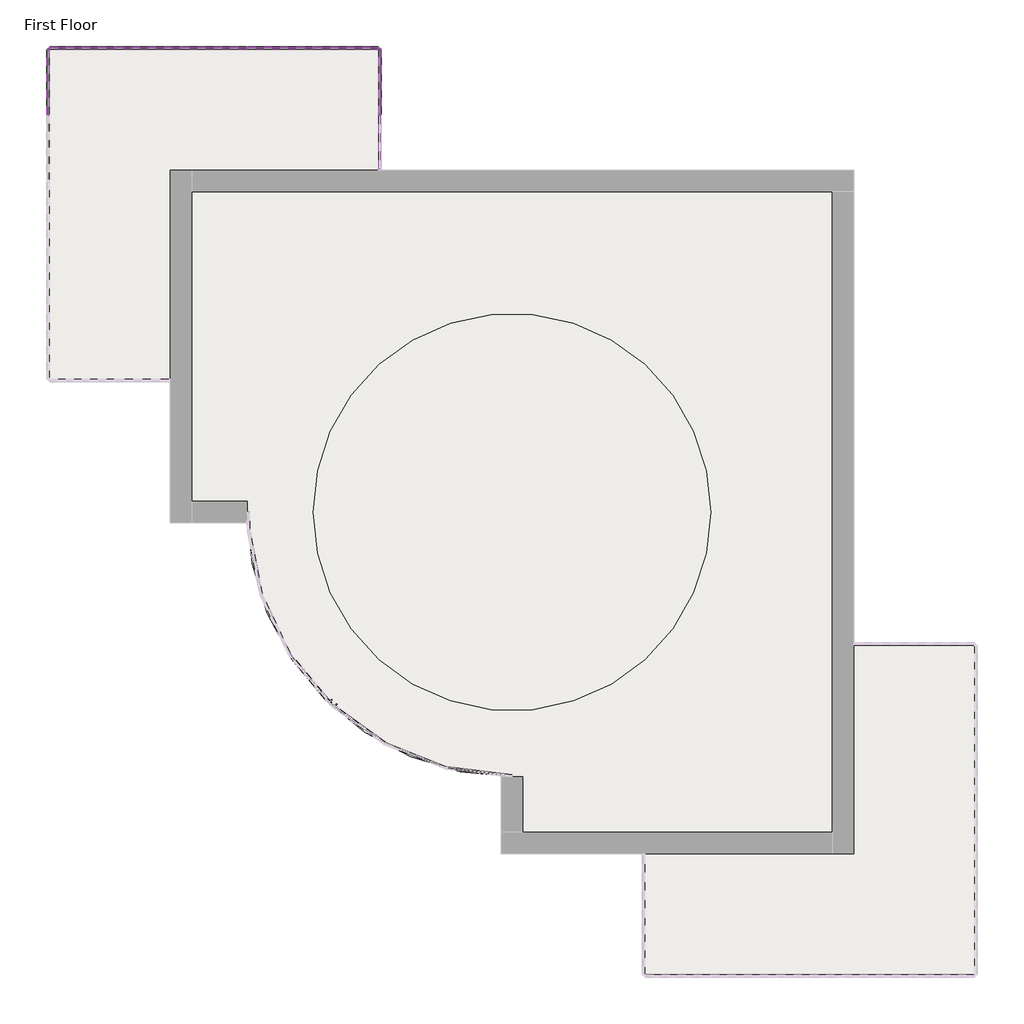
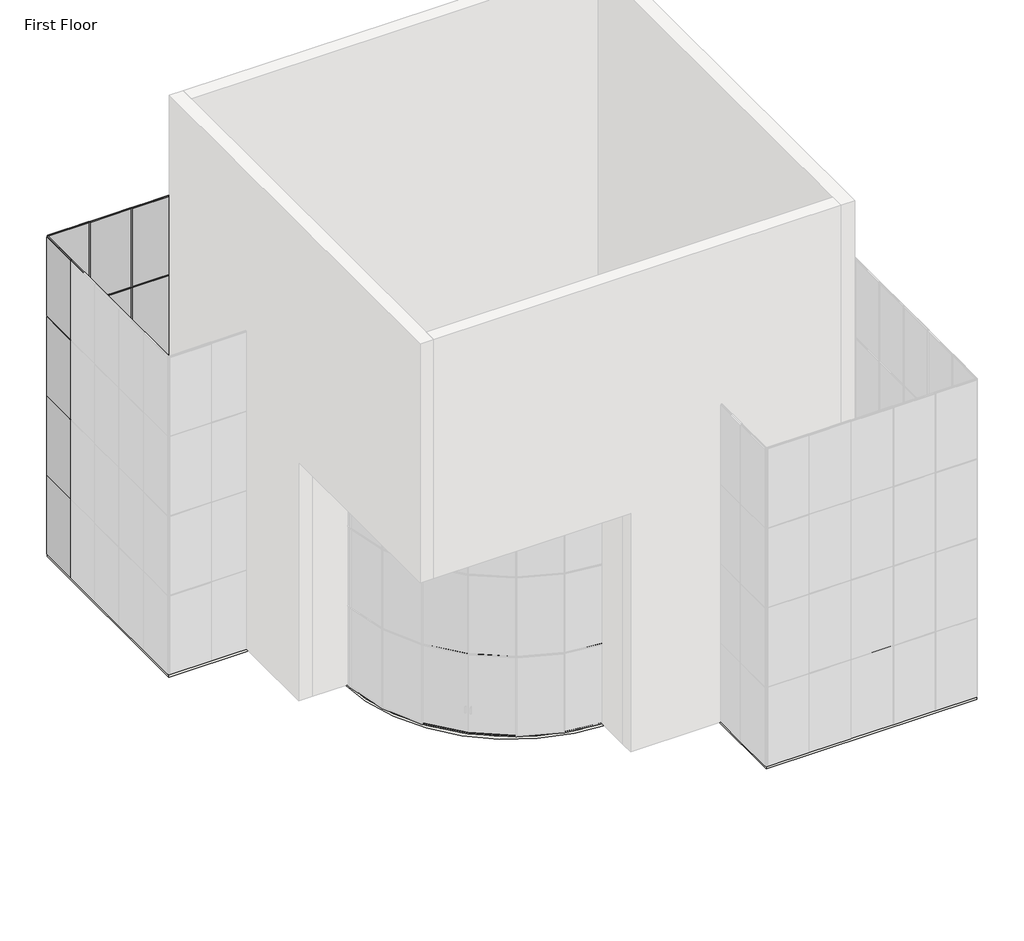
# One storey, part 4 of 4: 84 members, 28 plates, 4 slabs.
"""IFC4 building model written with IfcOpenShell, lengths in millimetres."""

from ifc_helpers import new_model, si_unit, point, frame, frame_2d, origin, place, context, project, spatial, polyline, circle_curve, trimmed, segment, composite_curve, outline, extrude, transform, mapped, element, save
from components import member_5e617a80, member_74941792, member_cbdb9076, member_7e523723, member_9fd3d903, member_6604d1e0, member_e0356dda, member_be0b070d, system_panel_glazed_9b7d687a, system_panel_glazed_9a901b4a, system_panel_glazed_2d5e1d3d, system_panel_glazed_37964ea6

model = new_model("IFC4")

# Units and contexts
model_context = context("Model", 3, world=origin())
ifc_project = project(units=[si_unit("LENGTHUNIT", "METRE", prefix="MILLI")], contexts=[model_context])

# Site, building, storey
site = spatial("IfcSite", under=ifc_project)
building = spatial("IfcBuilding", under=site)
storey = spatial("IfcBuildingStorey", under=building, Name="First Floor", Elevation=0.0)

# Members
placement = place(None, origin())
member_shape = member_5e617a80(model_context)
element("IfcMember", 1, ObjectType="Rectangular Mullion : 1\" Square", at=placement, inside=storey, context=model_context, shape_type="MappedRepresentation", body=[
    mapped(member_shape, transform((-13139.1056157, 8470.7139224, 3048.0), x_axis=(0.0, 0.0, 1.0), y_axis=(-1.0, 0.0, 0.0), z_axis=(0.0, -1.0, 0.0))),
])
element("IfcMember", 2, ObjectType="Rectangular Mullion : 1\" Square", at=placement, inside=storey, context=model_context, shape_type="MappedRepresentation", body=[
    mapped(member_shape, transform((-13139.1056157, 8470.7139224, 6096.0), x_axis=(0.0, 0.0, 1.0), y_axis=(-1.0, 0.0, 0.0), z_axis=(0.0, -1.0, 0.0))),
])
element("IfcMember", 3, ObjectType="Rectangular Mullion : 1\" Square", at=placement, inside=storey, context=model_context, shape_type="MappedRepresentation", body=[
    mapped(member_shape, transform((-13139.1056157, 8470.7139224, 9144.0), x_axis=(0.0, 0.0, 1.0), y_axis=(-1.0, 0.0, 0.0), z_axis=(0.0, -1.0, 0.0))),
])
element("IfcMember", 4, ObjectType="Rectangular Mullion : 1\" Square", at=placement, inside=storey, context=model_context, shape_type="MappedRepresentation", body=[
    mapped(member_shape, transform((-7030.4056157, 9982.0139224, 3048.0), x_axis=(0.0, 0.0, 1.0), y_axis=(0.0, 1.0, 0.0), z_axis=(-0.9999999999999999, 0.0, 0.0))),
])
element("IfcMember", 5, ObjectType="Rectangular Mullion : 1\" Square", at=placement, inside=storey, context=model_context, shape_type="MappedRepresentation", body=[
    mapped(member_shape, transform((-13113.7056157, 9982.0139224, 3048.0), x_axis=(0.0, 0.0, 1.0), y_axis=(0.0, 1.0, 0.0), z_axis=(-1.0, 0.0, 0.0))),
])
element("IfcMember", 6, ObjectType="Rectangular Mullion : 1\" Square", at=placement, inside=storey, context=model_context, shape_type="MappedRepresentation", body=[
    mapped(member_shape, transform((-7030.4056157, 9982.0139224, 6096.0), x_axis=(0.0, 0.0, 1.0), y_axis=(0.0, 1.0, 0.0), z_axis=(-0.9999999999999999, 0.0, 0.0))),
])
element("IfcMember", 7, ObjectType="Rectangular Mullion : 1\" Square", at=placement, inside=storey, context=model_context, shape_type="MappedRepresentation", body=[
    mapped(member_shape, transform((-13113.7056157, 9982.0139224, 6096.0), x_axis=(0.0, 0.0, 1.0), y_axis=(0.0, 1.0, 0.0), z_axis=(-1.0, 0.0, 0.0))),
])
element("IfcMember", 8, ObjectType="Rectangular Mullion : 1\" Square", at=placement, inside=storey, context=model_context, shape_type="MappedRepresentation", body=[
    mapped(member_shape, transform((-7030.4056157, 9982.0139224, 9144.0), x_axis=(0.0, 0.0, 1.0), y_axis=(0.0, 1.0, 0.0), z_axis=(-0.9999999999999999, 0.0, 0.0))),
])
element("IfcMember", 9, ObjectType="Rectangular Mullion : 1\" Square", at=placement, inside=storey, context=model_context, shape_type="MappedRepresentation", body=[
    mapped(member_shape, transform((-13113.7056157, 9982.0139224, 9144.0), x_axis=(0.0, 0.0, 1.0), y_axis=(0.0, 1.0, 0.0), z_axis=(-1.0, 0.0, 0.0))),
])
member_2_shape = member_74941792(model_context)
element("IfcMember", 10, ObjectType="Rectangular Mullion : 1\" Square", at=placement, inside=storey, context=model_context, shape_type="MappedRepresentation", body=[
    mapped(member_2_shape, transform((-13139.1056157, 8470.7139224, 12192.0), x_axis=(0.0, 0.0, 1.0), y_axis=(-1.0, 0.0, 0.0), z_axis=(0.0, -1.0, 0.0))),
])
element("IfcMember", 11, ObjectType="Rectangular Mullion : 1\" Square", at=placement, inside=storey, context=model_context, shape_type="MappedRepresentation", body=[
    mapped(member_2_shape, transform((-13113.7056157, 9982.0139224, 12192.0), x_axis=(0.0, 0.0, 1.0), y_axis=(0.0, 1.0, 0.0), z_axis=(-1.0, 0.0, 0.0))),
])
element("IfcMember", 12, ObjectType="Rectangular Mullion : 1\" Square", at=placement, inside=storey, context=model_context, shape_type="MappedRepresentation", body=[
    mapped(member_2_shape, transform((-7030.4056157, 9982.0139224, 12192.0), x_axis=(0.0, 0.0, 1.0), y_axis=(0.0, 1.0, 0.0), z_axis=(-0.9999999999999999, 0.0, 0.0))),
])
member_3_shape = member_cbdb9076(model_context)
element("IfcMember", 13, ObjectType="Rectangular Mullion : 1\" Square", at=placement, inside=storey, context=model_context, shape_type="MappedRepresentation", body=[
    mapped(member_3_shape, transform((-13139.1056157, 8458.0139224, 3048.0), x_axis=(0.0, -1.0, 0.0), y_axis=(-1.0, 0.0, 0.0), z_axis=(0.0, 0.0, -1.0))),
])
element("IfcMember", 14, ObjectType="Rectangular Mullion : 1\" Square", at=placement, inside=storey, context=model_context, shape_type="MappedRepresentation", body=[
    mapped(member_3_shape, transform((-13139.1056157, 8458.0139224, 6096.0), x_axis=(0.0, -1.0, 0.0), y_axis=(-1.0, 0.0, 0.0), z_axis=(0.0, 0.0, -1.0))),
])
element("IfcMember", 15, ObjectType="Rectangular Mullion : 1\" Square", at=placement, inside=storey, context=model_context, shape_type="MappedRepresentation", body=[
    mapped(member_3_shape, transform((-8567.1056157, 9982.0139224, 6096.0), x_axis=(-1.0, 0.0, 0.0), y_axis=(0.0, 1.0, 0.0), z_axis=(0.0, 0.0, -1.0))),
])
element("IfcMember", 16, ObjectType="Rectangular Mullion : 1\" Square", at=placement, inside=storey, context=model_context, shape_type="MappedRepresentation", body=[
    mapped(member_3_shape, transform((-10091.1056157, 9982.0139224, 3048.0), x_axis=(-1.0, 0.0, 0.0), y_axis=(0.0, 1.0, 0.0), z_axis=(0.0, 0.0, -1.0))),
])
element("IfcMember", 17, ObjectType="Rectangular Mullion : 1\" Square", at=placement, inside=storey, context=model_context, shape_type="MappedRepresentation", body=[
    mapped(member_3_shape, transform((-10091.1056157, 9982.0139224, 6096.0), x_axis=(-1.0, 0.0, 0.0), y_axis=(0.0, 1.0, 0.0), z_axis=(0.0, 0.0, -1.0))),
])
element("IfcMember", 18, ObjectType="Rectangular Mullion : 1\" Square", at=placement, inside=storey, context=model_context, shape_type="MappedRepresentation", body=[
    mapped(member_3_shape, transform((-11615.1056157, 9982.0139224, 3048.0), x_axis=(-1.0, 0.0, 0.0), y_axis=(0.0, 1.0, 0.0), z_axis=(0.0, 0.0, -1.0))),
])
element("IfcMember", 19, ObjectType="Rectangular Mullion : 1\" Square", at=placement, inside=storey, context=model_context, shape_type="MappedRepresentation", body=[
    mapped(member_3_shape, transform((-11615.1056157, 9982.0139224, 6096.0), x_axis=(-1.0, 0.0, 0.0), y_axis=(0.0, 1.0, 0.0), z_axis=(0.0, 0.0, -1.0))),
])
element("IfcMember", 20, ObjectType="Rectangular Mullion : 1\" Square", at=placement, inside=storey, context=model_context, shape_type="MappedRepresentation", body=[
    mapped(member_3_shape, transform((-7043.1056157, 9982.0139224, 3048.0), x_axis=(-1.0, 0.0, 0.0), y_axis=(0.0, 1.0, 0.0), z_axis=(0.0, 0.0, -1.0))),
])
element("IfcMember", 21, ObjectType="Rectangular Mullion : 1\" Square", at=placement, inside=storey, context=model_context, shape_type="MappedRepresentation", body=[
    mapped(member_3_shape, transform((-7043.1056157, 9982.0139224, 6096.0), x_axis=(-1.0, 0.0, 0.0), y_axis=(0.0, 1.0, 0.0), z_axis=(0.0, 0.0, -1.0))),
])
element("IfcMember", 22, ObjectType="Rectangular Mullion : 1\" Square", at=placement, inside=storey, context=model_context, shape_type="MappedRepresentation", body=[
    mapped(member_3_shape, transform((-8567.1056157, 9982.0139224, 3048.0), x_axis=(-1.0, 0.0, 0.0), y_axis=(0.0, 1.0, 0.0), z_axis=(0.0, 0.0, -1.0))),
])
element("IfcMember", 23, ObjectType="Rectangular Mullion : 1\" Square", at=placement, inside=storey, context=model_context, shape_type="MappedRepresentation", body=[
    mapped(member_3_shape, transform((-5519.1056157, 9978.8389224, 3048.0), x_axis=(0.0, 1.0, 0.0), y_axis=(1.0, 0.0, 0.0), z_axis=(0.0, 0.0, -1.0))),
])
element("IfcMember", 24, ObjectType="Rectangular Mullion : 1\" Square", at=placement, inside=storey, context=model_context, shape_type="MappedRepresentation", body=[
    mapped(member_3_shape, transform((-5519.1056157, 9978.8389224, 6096.0), x_axis=(0.0, 1.0, 0.0), y_axis=(1.0, 0.0, 0.0), z_axis=(0.0, 0.0, -1.0))),
])
element("IfcMember", 25, ObjectType="Rectangular Mullion : 1\" Square", at=placement, inside=storey, context=model_context, shape_type="MappedRepresentation", body=[
    mapped(member_3_shape, transform((-5519.1056157, 8454.8389224, 3048.0), x_axis=(0.0, 1.0, 0.0), y_axis=(1.0, 0.0, 0.0), z_axis=(0.0, 0.0, -1.0))),
])
element("IfcMember", 26, ObjectType="Rectangular Mullion : 1\" Square", at=placement, inside=storey, context=model_context, shape_type="MappedRepresentation", body=[
    mapped(member_3_shape, transform((-5519.1056157, 8454.8389224, 6096.0), x_axis=(0.0, 1.0, 0.0), y_axis=(1.0, 0.0, 0.0), z_axis=(0.0, 0.0, -1.0))),
])
element("IfcMember", 27, ObjectType="Rectangular Mullion : 1\" Square", at=placement, inside=storey, context=model_context, shape_type="MappedRepresentation", body=[
    mapped(member_3_shape, transform((-13139.1056157, 8458.0139224, 9144.0), x_axis=(0.0, -1.0, 0.0), y_axis=(-1.0, 0.0, 0.0), z_axis=(0.0, 0.0, -1.0))),
])
element("IfcMember", 28, ObjectType="Rectangular Mullion : 1\" Square", at=placement, inside=storey, context=model_context, shape_type="MappedRepresentation", body=[
    mapped(member_3_shape, transform((-8567.1056157, 9982.0139224, 9144.0), x_axis=(-1.0, 0.0, 0.0), y_axis=(0.0, 1.0, 0.0), z_axis=(0.0, 0.0, -1.0))),
])
element("IfcMember", 29, ObjectType="Rectangular Mullion : 1\" Square", at=placement, inside=storey, context=model_context, shape_type="MappedRepresentation", body=[
    mapped(member_3_shape, transform((-10091.1056157, 9982.0139224, 9144.0), x_axis=(-1.0, 0.0, 0.0), y_axis=(0.0, 1.0, 0.0), z_axis=(0.0, 0.0, -1.0))),
])
element("IfcMember", 30, ObjectType="Rectangular Mullion : 1\" Square", at=placement, inside=storey, context=model_context, shape_type="MappedRepresentation", body=[
    mapped(member_3_shape, transform((-11615.1056157, 9982.0139224, 9144.0), x_axis=(-1.0, 0.0, 0.0), y_axis=(0.0, 1.0, 0.0), z_axis=(0.0, 0.0, -1.0))),
])
element("IfcMember", 31, ObjectType="Rectangular Mullion : 1\" Square", at=placement, inside=storey, context=model_context, shape_type="MappedRepresentation", body=[
    mapped(member_3_shape, transform((-7043.1056157, 9982.0139224, 9144.0), x_axis=(-1.0, 0.0, 0.0), y_axis=(0.0, 1.0, 0.0), z_axis=(0.0, 0.0, -1.0))),
])
element("IfcMember", 32, ObjectType="Rectangular Mullion : 1\" Square", at=placement, inside=storey, context=model_context, shape_type="MappedRepresentation", body=[
    mapped(member_3_shape, transform((-5519.1056157, 9978.8389224, 9144.0), x_axis=(0.0, 1.0, 0.0), y_axis=(1.0, 0.0, 0.0), z_axis=(0.0, 0.0, -1.0))),
])
element("IfcMember", 33, ObjectType="Rectangular Mullion : 1\" Square", at=placement, inside=storey, context=model_context, shape_type="MappedRepresentation", body=[
    mapped(member_3_shape, transform((-5519.1056157, 8454.8389224, 9144.0), x_axis=(0.0, 1.0, 0.0), y_axis=(1.0, 0.0, 0.0), z_axis=(0.0, 0.0, -1.0))),
])
element("IfcMember", 34, ObjectType="Rectangular Mullion : 1\" Square", at=placement, inside=storey, context=model_context, shape_type="MappedRepresentation", body=[
    mapped(member_3_shape, transform((-13139.1056157, 8458.0139224, 0.0), x_axis=(0.0, -1.0, 0.0), y_axis=(-1.0, 0.0, 0.0), z_axis=(0.0, 0.0, -1.0))),
])
element("IfcMember", 35, ObjectType="Rectangular Mullion : 1\" Square", at=placement, inside=storey, context=model_context, shape_type="MappedRepresentation", body=[
    mapped(member_3_shape, transform((-7043.1056157, 9982.0139224, 0.0), x_axis=(-1.0, 0.0, 0.0), y_axis=(0.0, 1.0, 0.0), z_axis=(0.0, 0.0, -1.0))),
])
element("IfcMember", 36, ObjectType="Rectangular Mullion : 1\" Square", at=placement, inside=storey, context=model_context, shape_type="MappedRepresentation", body=[
    mapped(member_3_shape, transform((-8567.1056157, 9982.0139224, 0.0), x_axis=(-1.0, 0.0, 0.0), y_axis=(0.0, 1.0, 0.0), z_axis=(0.0, 0.0, -1.0))),
])
element("IfcMember", 37, ObjectType="Rectangular Mullion : 1\" Square", at=placement, inside=storey, context=model_context, shape_type="MappedRepresentation", body=[
    mapped(member_3_shape, transform((-10091.1056157, 9982.0139224, 0.0), x_axis=(-1.0, 0.0, 0.0), y_axis=(0.0, 1.0, 0.0), z_axis=(0.0, 0.0, -1.0))),
])
element("IfcMember", 38, ObjectType="Rectangular Mullion : 1\" Square", at=placement, inside=storey, context=model_context, shape_type="MappedRepresentation", body=[
    mapped(member_3_shape, transform((-11615.1056157, 9982.0139224, 0.0), x_axis=(-1.0, 0.0, 0.0), y_axis=(0.0, 1.0, 0.0), z_axis=(0.0, 0.0, -1.0))),
])
element("IfcMember", 39, ObjectType="Rectangular Mullion : 1\" Square", at=placement, inside=storey, context=model_context, shape_type="MappedRepresentation", body=[
    mapped(member_3_shape, transform((-5519.1056157, 9978.8389224, 0.0), x_axis=(0.0, 1.0, 0.0), y_axis=(1.0, 0.0, 0.0), z_axis=(0.0, 0.0, -1.0))),
])
element("IfcMember", 40, ObjectType="Rectangular Mullion : 1\" Square", at=placement, inside=storey, context=model_context, shape_type="MappedRepresentation", body=[
    mapped(member_3_shape, transform((-5519.1056157, 8454.8389224, 0.0), x_axis=(0.0, 1.0, 0.0), y_axis=(1.0, 0.0, 0.0), z_axis=(0.0, 0.0, -1.0))),
])
element("IfcMember", 41, ObjectType="Rectangular Mullion : 1\" Square", at=placement, inside=storey, context=model_context, shape_type="MappedRepresentation", body=[
    mapped(member_2_shape, transform((-13139.1056157, 9956.6139224, 0.0), x_axis=(0.0, 0.0, -1.0), y_axis=(-1.0, 0.0, 0.0), z_axis=(0.0, 1.0, 0.0))),
])
element("IfcMember", 42, ObjectType="Rectangular Mullion : 1\" Square", at=placement, inside=storey, context=model_context, shape_type="MappedRepresentation", body=[
    mapped(member_2_shape, transform((-5544.5056157, 9982.0139224, 0.0), x_axis=(0.0, 0.0, -1.0), y_axis=(0.0, 1.0, 0.0), z_axis=(0.9999999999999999, 0.0, 0.0))),
])
element("IfcMember", 43, ObjectType="Rectangular Mullion : 1\" Square", at=placement, inside=storey, context=model_context, shape_type="MappedRepresentation", body=[
    mapped(member_2_shape, transform((-11627.8056157, 9982.0139224, 0.0), x_axis=(0.0, 0.0, -1.0), y_axis=(0.0, 1.0, 0.0), z_axis=(1.0, 0.0, 0.0))),
])
member_4_shape = member_7e523723(model_context)
element("IfcMember", 44, ObjectType="Rectangular Mullion : 1\" Square", at=placement, inside=storey, context=model_context, shape_type="MappedRepresentation", body=[
    mapped(member_4_shape, transform((-13139.1056157, 9982.0139224, 12192.0), x_axis=(0.0, 1.0, 0.0), y_axis=(-1.0, 0.0, 0.0), z_axis=(0.0, 0.0, 1.0))),
])
element("IfcMember", 45, ObjectType="Rectangular Mullion : 1\" Square", at=placement, inside=storey, context=model_context, shape_type="MappedRepresentation", body=[
    mapped(member_4_shape, transform((-5519.1056157, 9982.0139224, 12192.0), x_axis=(1.0, 0.0, 0.0), y_axis=(0.0, 1.0, 0.0), z_axis=(0.0, 0.0, 1.0))),
])
element("IfcMember", 46, ObjectType="Rectangular Mullion : 1\" Square", at=placement, inside=storey, context=model_context, shape_type="MappedRepresentation", body=[
    mapped(member_4_shape, transform((-13139.1056157, 9982.0139224, 3048.0), x_axis=(-1.0, 0.0, 0.0), y_axis=(0.0, 1.0, 0.0), z_axis=(0.0, 0.0, -1.0))),
])
element("IfcMember", 47, ObjectType="Rectangular Mullion : 1\" Square", at=placement, inside=storey, context=model_context, shape_type="MappedRepresentation", body=[
    mapped(member_4_shape, transform((-13139.1056157, 9982.0139224, 6096.0), x_axis=(-1.0, 0.0, 0.0), y_axis=(0.0, 1.0, 0.0), z_axis=(0.0, 0.0, -1.0))),
])
element("IfcMember", 48, ObjectType="Rectangular Mullion : 1\" Square", at=placement, inside=storey, context=model_context, shape_type="MappedRepresentation", body=[
    mapped(member_4_shape, transform((-13139.1056157, 9982.0139224, 9144.0), x_axis=(-1.0, 0.0, 0.0), y_axis=(0.0, 1.0, 0.0), z_axis=(0.0, 0.0, -1.0))),
])
element("IfcMember", 49, ObjectType="Rectangular Mullion : 1\" Square", at=placement, inside=storey, context=model_context, shape_type="MappedRepresentation", body=[
    mapped(member_4_shape, transform((-13139.1056157, 9982.0139224, 3048.0), x_axis=(0.0, 1.0, 0.0), y_axis=(-1.0, 0.0, 0.0), z_axis=(0.0, 0.0, 1.0))),
])
element("IfcMember", 50, ObjectType="Rectangular Mullion : 1\" Square", at=placement, inside=storey, context=model_context, shape_type="MappedRepresentation", body=[
    mapped(member_4_shape, transform((-5519.1056157, 9982.0139224, 3048.0), x_axis=(1.0, 0.0, 0.0), y_axis=(0.0, 1.0, 0.0), z_axis=(0.0, 0.0, 1.0))),
])
element("IfcMember", 51, ObjectType="Rectangular Mullion : 1\" Square", at=placement, inside=storey, context=model_context, shape_type="MappedRepresentation", body=[
    mapped(member_4_shape, transform((-13139.1056157, 9982.0139224, 6096.0), x_axis=(0.0, 1.0, 0.0), y_axis=(-1.0, 0.0, 0.0), z_axis=(0.0, 0.0, 1.0))),
])
element("IfcMember", 52, ObjectType="Rectangular Mullion : 1\" Square", at=placement, inside=storey, context=model_context, shape_type="MappedRepresentation", body=[
    mapped(member_4_shape, transform((-13139.1056157, 9982.0139224, 9144.0), x_axis=(0.0, 1.0, 0.0), y_axis=(-1.0, 0.0, 0.0), z_axis=(0.0, 0.0, 1.0))),
])
element("IfcMember", 53, ObjectType="Rectangular Mullion : 1\" Square", at=placement, inside=storey, context=model_context, shape_type="MappedRepresentation", body=[
    mapped(member_4_shape, transform((-5519.1056157, 9982.0139224, 6096.0), x_axis=(1.0, 0.0, 0.0), y_axis=(0.0, 1.0, 0.0), z_axis=(0.0, 0.0, 1.0))),
])
element("IfcMember", 54, ObjectType="Rectangular Mullion : 1\" Square", at=placement, inside=storey, context=model_context, shape_type="MappedRepresentation", body=[
    mapped(member_4_shape, transform((-5519.1056157, 9982.0139224, 9144.0), x_axis=(1.0, 0.0, 0.0), y_axis=(0.0, 1.0, 0.0), z_axis=(0.0, 0.0, 1.0))),
])
element("IfcMember", 55, ObjectType="Rectangular Mullion : 1\" Square", at=placement, inside=storey, context=model_context, shape_type="MappedRepresentation", body=[
    mapped(member_4_shape, transform((-13139.1056157, 9982.0139224, 0.0), x_axis=(-1.0, 0.0, 0.0), y_axis=(0.0, 1.0, 0.0), z_axis=(0.0, 0.0, -1.0))),
])
member_5_shape = member_9fd3d903(model_context)
element("IfcMember", 56, ObjectType="Rectangular Mullion : 1\" Square", at=placement, inside=storey, context=model_context, shape_type="MappedRepresentation", body=[
    mapped(member_5_shape, transform((-8554.4056157, 9982.0139224, 3048.0), x_axis=(0.0, 0.0, 1.0), y_axis=(0.0, 1.0, 0.0), z_axis=(-1.0, 0.0, 0.0))),
])
element("IfcMember", 57, ObjectType="Rectangular Mullion : 1\" Square", at=placement, inside=storey, context=model_context, shape_type="MappedRepresentation", body=[
    mapped(member_5_shape, transform((-10078.4056157, 9982.0139224, 3048.0), x_axis=(0.0, 0.0, 1.0), y_axis=(0.0, 1.0, 0.0), z_axis=(-0.9999999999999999, 0.0, 0.0))),
])
element("IfcMember", 58, ObjectType="Rectangular Mullion : 1\" Square", at=placement, inside=storey, context=model_context, shape_type="MappedRepresentation", body=[
    mapped(member_5_shape, transform((-11602.4056157, 9982.0139224, 3048.0), x_axis=(0.0, 0.0, 1.0), y_axis=(0.0, 1.0, 0.0), z_axis=(-1.0, 0.0, 0.0))),
])
element("IfcMember", 59, ObjectType="Rectangular Mullion : 1\" Square", at=placement, inside=storey, context=model_context, shape_type="MappedRepresentation", body=[
    mapped(member_5_shape, transform((-8554.4056157, 9982.0139224, 6096.0), x_axis=(0.0, 0.0, 1.0), y_axis=(0.0, 1.0, 0.0), z_axis=(-1.0, 0.0, 0.0))),
])
element("IfcMember", 60, ObjectType="Rectangular Mullion : 1\" Square", at=placement, inside=storey, context=model_context, shape_type="MappedRepresentation", body=[
    mapped(member_5_shape, transform((-10078.4056157, 9982.0139224, 6096.0), x_axis=(0.0, 0.0, 1.0), y_axis=(0.0, 1.0, 0.0), z_axis=(-0.9999999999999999, 0.0, 0.0))),
])
element("IfcMember", 61, ObjectType="Rectangular Mullion : 1\" Square", at=placement, inside=storey, context=model_context, shape_type="MappedRepresentation", body=[
    mapped(member_5_shape, transform((-11602.4056157, 9982.0139224, 6096.0), x_axis=(0.0, 0.0, 1.0), y_axis=(0.0, 1.0, 0.0), z_axis=(-1.0, 0.0, 0.0))),
])
element("IfcMember", 62, ObjectType="Rectangular Mullion : 1\" Square", at=placement, inside=storey, context=model_context, shape_type="MappedRepresentation", body=[
    mapped(member_5_shape, transform((-8554.4056157, 9982.0139224, 9144.0), x_axis=(0.0, 0.0, 1.0), y_axis=(0.0, 1.0, 0.0), z_axis=(-1.0, 0.0, 0.0))),
])
element("IfcMember", 63, ObjectType="Rectangular Mullion : 1\" Square", at=placement, inside=storey, context=model_context, shape_type="MappedRepresentation", body=[
    mapped(member_5_shape, transform((-10078.4056157, 9982.0139224, 9144.0), x_axis=(0.0, 0.0, 1.0), y_axis=(0.0, 1.0, 0.0), z_axis=(-0.9999999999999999, 0.0, 0.0))),
])
element("IfcMember", 64, ObjectType="Rectangular Mullion : 1\" Square", at=placement, inside=storey, context=model_context, shape_type="MappedRepresentation", body=[
    mapped(member_5_shape, transform((-11602.4056157, 9982.0139224, 9144.0), x_axis=(0.0, 0.0, 1.0), y_axis=(0.0, 1.0, 0.0), z_axis=(-1.0, 0.0, 0.0))),
])
element("IfcMember", 65, ObjectType="Rectangular Mullion : 1\" Square", at=placement, inside=storey, context=model_context, shape_type="MappedRepresentation", body=[
    mapped(member_5_shape, transform((-5519.1056157, 9966.1389224, 3048.0), x_axis=(0.0, 0.0, 1.0), y_axis=(1.0, 0.0, 0.0), z_axis=(0.0, 1.0, 0.0))),
])
element("IfcMember", 66, ObjectType="Rectangular Mullion : 1\" Square", at=placement, inside=storey, context=model_context, shape_type="MappedRepresentation", body=[
    mapped(member_5_shape, transform((-5519.1056157, 9966.1389224, 6096.0), x_axis=(0.0, 0.0, 1.0), y_axis=(1.0, 0.0, 0.0), z_axis=(0.0, 1.0, 0.0))),
])
element("IfcMember", 67, ObjectType="Rectangular Mullion : 1\" Square", at=placement, inside=storey, context=model_context, shape_type="MappedRepresentation", body=[
    mapped(member_5_shape, transform((-5519.1056157, 9966.1389224, 9144.0), x_axis=(0.0, 0.0, 1.0), y_axis=(1.0, 0.0, 0.0), z_axis=(0.0, 1.0, 0.0))),
])
member_6_shape = member_6604d1e0(model_context)
element("IfcMember", 68, ObjectType="Rectangular Mullion : 1\" Square", at=placement, inside=storey, context=model_context, shape_type="MappedRepresentation", body=[
    mapped(member_6_shape, transform((-8554.4056157, 9982.0139224, 12192.0), x_axis=(0.0, 0.0, 1.0), y_axis=(0.0, 1.0, 0.0), z_axis=(-1.0, 0.0, 0.0))),
])
element("IfcMember", 69, ObjectType="Rectangular Mullion : 1\" Square", at=placement, inside=storey, context=model_context, shape_type="MappedRepresentation", body=[
    mapped(member_6_shape, transform((-10078.4056157, 9982.0139224, 12192.0), x_axis=(0.0, 0.0, 1.0), y_axis=(0.0, 1.0, 0.0), z_axis=(-0.9999999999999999, 0.0, 0.0))),
])
element("IfcMember", 70, ObjectType="Rectangular Mullion : 1\" Square", at=placement, inside=storey, context=model_context, shape_type="MappedRepresentation", body=[
    mapped(member_6_shape, transform((-11602.4056157, 9982.0139224, 12192.0), x_axis=(0.0, 0.0, 1.0), y_axis=(0.0, 1.0, 0.0), z_axis=(-1.0, 0.0, 0.0))),
])
element("IfcMember", 71, ObjectType="Rectangular Mullion : 1\" Square", at=placement, inside=storey, context=model_context, shape_type="MappedRepresentation", body=[
    mapped(member_6_shape, transform((-5519.1056157, 9966.1389224, 12192.0), x_axis=(0.0, 0.0, 1.0), y_axis=(1.0, 0.0, 0.0), z_axis=(0.0, 1.0, 0.0))),
])
element("IfcMember", 72, ObjectType="Rectangular Mullion : 1\" Square", at=placement, inside=storey, context=model_context, shape_type="MappedRepresentation", body=[
    mapped(member_6_shape, transform((-13139.1056157, 8445.3139224, 0.0), x_axis=(0.0, 0.0, -1.0), y_axis=(-1.0, 0.0, 0.0), z_axis=(0.0, 1.0, 0.0))),
])
element("IfcMember", 73, ObjectType="Rectangular Mullion : 1\" Square", at=placement, inside=storey, context=model_context, shape_type="MappedRepresentation", body=[
    mapped(member_6_shape, transform((-7055.8056157, 9982.0139224, 0.0), x_axis=(0.0, 0.0, -1.0), y_axis=(0.0, 1.0, 0.0), z_axis=(1.0, 0.0, 0.0))),
])
element("IfcMember", 74, ObjectType="Rectangular Mullion : 1\" Square", at=placement, inside=storey, context=model_context, shape_type="MappedRepresentation", body=[
    mapped(member_6_shape, transform((-8579.8056157, 9982.0139224, 0.0), x_axis=(0.0, 0.0, -1.0), y_axis=(0.0, 1.0, 0.0), z_axis=(0.9999999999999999, 0.0, 0.0))),
])
element("IfcMember", 75, ObjectType="Rectangular Mullion : 1\" Square", at=placement, inside=storey, context=model_context, shape_type="MappedRepresentation", body=[
    mapped(member_6_shape, transform((-10103.8056157, 9982.0139224, 0.0), x_axis=(0.0, 0.0, -1.0), y_axis=(0.0, 1.0, 0.0), z_axis=(1.0, 0.0, 0.0))),
])
element("IfcMember", 76, ObjectType="Rectangular Mullion : 1\" Square", at=placement, inside=storey, context=model_context, shape_type="MappedRepresentation", body=[
    mapped(member_6_shape, transform((-5519.1056157, 8467.5389224, 0.0), x_axis=(0.0, 0.0, -1.0), y_axis=(1.0, 0.0, 0.0), z_axis=(0.0, -1.0, 0.0))),
])
member_7_shape = member_e0356dda(model_context)
element("IfcMember", 77, ObjectType="Rectangular Mullion : 1\" Square", at=placement, inside=storey, context=model_context, shape_type="MappedRepresentation", body=[
    mapped(member_7_shape, transform((-5519.1056157, 8442.1389224, 3048.0), x_axis=(0.0, 0.0, 1.0), y_axis=(1.0, 0.0, 0.0), z_axis=(0.0, 1.0, 0.0))),
])
element("IfcMember", 78, ObjectType="Rectangular Mullion : 1\" Square", at=placement, inside=storey, context=model_context, shape_type="MappedRepresentation", body=[
    mapped(member_7_shape, transform((-5519.1056157, 8442.1389224, 6096.0), x_axis=(0.0, 0.0, 1.0), y_axis=(1.0, 0.0, 0.0), z_axis=(0.0, 1.0, 0.0))),
])
element("IfcMember", 79, ObjectType="Rectangular Mullion : 1\" Square", at=placement, inside=storey, context=model_context, shape_type="MappedRepresentation", body=[
    mapped(member_7_shape, transform((-5519.1056157, 8442.1389224, 9144.0), x_axis=(0.0, 0.0, 1.0), y_axis=(1.0, 0.0, 0.0), z_axis=(0.0, 1.0, 0.0))),
])
member_8_shape = member_be0b070d(model_context)
element("IfcMember", 80, ObjectType="Rectangular Mullion : 1\" Square", at=placement, inside=storey, context=model_context, shape_type="MappedRepresentation", body=[
    mapped(member_8_shape, transform((-5519.1056157, 8442.1389224, 12192.0), x_axis=(0.0, 0.0, 1.0), y_axis=(1.0, 0.0, 0.0), z_axis=(0.0, 1.0, 0.0))),
])
element("IfcMember", 81, ObjectType="Rectangular Mullion : 1\" Square", at=placement, inside=storey, context=model_context, shape_type="MappedRepresentation", body=[
    mapped(member_4_shape, transform((-5519.1056157, 9982.0139224, 3048.0), x_axis=(0.0, 1.0, 0.0), y_axis=(1.0, 0.0, 0.0), z_axis=(0.0, 0.0, -1.0))),
])
element("IfcMember", 82, ObjectType="Rectangular Mullion : 1\" Square", at=placement, inside=storey, context=model_context, shape_type="MappedRepresentation", body=[
    mapped(member_4_shape, transform((-5519.1056157, 9982.0139224, 6096.0), x_axis=(0.0, 1.0, 0.0), y_axis=(1.0, 0.0, 0.0), z_axis=(0.0, 0.0, -1.0))),
])
element("IfcMember", 83, ObjectType="Rectangular Mullion : 1\" Square", at=placement, inside=storey, context=model_context, shape_type="MappedRepresentation", body=[
    mapped(member_4_shape, transform((-5519.1056157, 9982.0139224, 9144.0), x_axis=(0.0, 1.0, 0.0), y_axis=(1.0, 0.0, 0.0), z_axis=(0.0, 0.0, -1.0))),
])
element("IfcMember", 84, ObjectType="Rectangular Mullion : 1\" Square", at=placement, inside=storey, context=model_context, shape_type="MappedRepresentation", body=[
    mapped(member_4_shape, transform((-5519.1056157, 9982.0139224, 0.0), x_axis=(0.0, 1.0, 0.0), y_axis=(1.0, 0.0, 0.0), z_axis=(0.0, 0.0, -1.0))),
])

# Plates
system_panel_glazed_shape = system_panel_glazed_9b7d687a(model_context)
element("IfcPlate", 85, ObjectType="System Panel : Glazed", at=placement, inside=storey, context=model_context, shape_type="MappedRepresentation", body=[
    mapped(system_panel_glazed_shape, transform((-13139.1056157, 9213.6639224, 25.4), x_axis=(0.0, -1.0, 0.0), y_axis=(1.0, 0.0, 0.0), z_axis=(0.0, 0.0, 1.0))),
])
element("IfcPlate", 86, ObjectType="System Panel : Glazed", at=placement, inside=storey, context=model_context, shape_type="MappedRepresentation", body=[
    mapped(system_panel_glazed_shape, transform((-13139.1056157, 9213.6639224, 9156.7), x_axis=(0.0, -1.0, 0.0), y_axis=(1.0, 0.0, 0.0), z_axis=(0.0, 0.0, 1.0))),
])
element("IfcPlate", 87, ObjectType="System Panel : Glazed", at=placement, inside=storey, context=model_context, shape_type="MappedRepresentation", body=[
    mapped(system_panel_glazed_shape, transform((-6287.4556157, 9982.0139224, 25.4), x_axis=(-1.0, 0.0, 0.0), y_axis=(0.0, -1.0, 0.0), z_axis=(0.0, 0.0, 1.0))),
])
element("IfcPlate", 88, ObjectType="System Panel : Glazed", at=placement, inside=storey, context=model_context, shape_type="MappedRepresentation", body=[
    mapped(system_panel_glazed_shape, transform((-12370.7556157, 9982.0139224, 25.4), x_axis=(-1.0, 0.0, 0.0), y_axis=(0.0, -1.0, 0.0), z_axis=(0.0, 0.0, 1.0))),
])
element("IfcPlate", 89, ObjectType="System Panel : Glazed", at=placement, inside=storey, context=model_context, shape_type="MappedRepresentation", body=[
    mapped(system_panel_glazed_shape, transform((-6287.4556157, 9982.0139224, 9156.7), x_axis=(-1.0, 0.0, 0.0), y_axis=(0.0, -1.0, 0.0), z_axis=(0.0, 0.0, 1.0))),
])
element("IfcPlate", 90, ObjectType="System Panel : Glazed", at=placement, inside=storey, context=model_context, shape_type="MappedRepresentation", body=[
    mapped(system_panel_glazed_shape, transform((-12370.7556157, 9982.0139224, 9156.7), x_axis=(-1.0, 0.0, 0.0), y_axis=(0.0, -1.0, 0.0), z_axis=(0.0, 0.0, 1.0))),
])
system_panel_glazed_2_shape = system_panel_glazed_9a901b4a(model_context)
element("IfcPlate", 91, ObjectType="System Panel : Glazed", at=placement, inside=storey, context=model_context, shape_type="MappedRepresentation", body=[
    mapped(system_panel_glazed_2_shape, transform((-13139.1056157, 9213.6639224, 3060.7), x_axis=(0.0, -1.0, 0.0), y_axis=(1.0, 0.0, 0.0), z_axis=(0.0, 0.0, 1.0))),
])
element("IfcPlate", 92, ObjectType="System Panel : Glazed", at=placement, inside=storey, context=model_context, shape_type="MappedRepresentation", body=[
    mapped(system_panel_glazed_2_shape, transform((-13139.1056157, 9213.6639224, 6108.7), x_axis=(0.0, -1.0, 0.0), y_axis=(1.0, 0.0, 0.0), z_axis=(0.0, 0.0, 1.0))),
])
element("IfcPlate", 93, ObjectType="System Panel : Glazed", at=placement, inside=storey, context=model_context, shape_type="MappedRepresentation", body=[
    mapped(system_panel_glazed_2_shape, transform((-6287.4556157, 9982.0139224, 3060.7), x_axis=(-1.0, 0.0, 0.0), y_axis=(0.0, -1.0, 0.0), z_axis=(0.0, 0.0, 1.0))),
])
element("IfcPlate", 94, ObjectType="System Panel : Glazed", at=placement, inside=storey, context=model_context, shape_type="MappedRepresentation", body=[
    mapped(system_panel_glazed_2_shape, transform((-12370.7556157, 9982.0139224, 3060.7), x_axis=(-1.0, 0.0, 0.0), y_axis=(0.0, -1.0, 0.0), z_axis=(0.0, 0.0, 1.0))),
])
element("IfcPlate", 95, ObjectType="System Panel : Glazed", at=placement, inside=storey, context=model_context, shape_type="MappedRepresentation", body=[
    mapped(system_panel_glazed_2_shape, transform((-6287.4556157, 9982.0139224, 6108.7), x_axis=(-1.0, 0.0, 0.0), y_axis=(0.0, -1.0, 0.0), z_axis=(0.0, 0.0, 1.0))),
])
element("IfcPlate", 96, ObjectType="System Panel : Glazed", at=placement, inside=storey, context=model_context, shape_type="MappedRepresentation", body=[
    mapped(system_panel_glazed_2_shape, transform((-12370.7556157, 9982.0139224, 6108.7), x_axis=(-1.0, 0.0, 0.0), y_axis=(0.0, -1.0, 0.0), z_axis=(0.0, 0.0, 1.0))),
])
system_panel_glazed_3_shape = system_panel_glazed_2d5e1d3d(model_context)
element("IfcPlate", 97, ObjectType="System Panel : Glazed", at=placement, inside=storey, context=model_context, shape_type="MappedRepresentation", body=[
    mapped(system_panel_glazed_3_shape, transform((-7805.1056157, 9982.0139224, 25.4), x_axis=(-1.0, 0.0, 0.0), y_axis=(0.0, -1.0, 0.0), z_axis=(0.0, 0.0, 1.0))),
])
element("IfcPlate", 98, ObjectType="System Panel : Glazed", at=placement, inside=storey, context=model_context, shape_type="MappedRepresentation", body=[
    mapped(system_panel_glazed_3_shape, transform((-9329.1056157, 9982.0139224, 25.4), x_axis=(-1.0, 0.0, 0.0), y_axis=(0.0, -1.0, 0.0), z_axis=(0.0, 0.0, 1.0))),
])
element("IfcPlate", 99, ObjectType="System Panel : Glazed", at=placement, inside=storey, context=model_context, shape_type="MappedRepresentation", body=[
    mapped(system_panel_glazed_3_shape, transform((-10853.1056157, 9982.0139224, 25.4), x_axis=(-1.0, 0.0, 0.0), y_axis=(0.0, -1.0, 0.0), z_axis=(0.0, 0.0, 1.0))),
])
element("IfcPlate", 100, ObjectType="System Panel : Glazed", at=placement, inside=storey, context=model_context, shape_type="MappedRepresentation", body=[
    mapped(system_panel_glazed_3_shape, transform((-7805.1056157, 9982.0139224, 9156.7), x_axis=(-1.0, 0.0, 0.0), y_axis=(0.0, -1.0, 0.0), z_axis=(0.0, 0.0, 1.0))),
])
element("IfcPlate", 101, ObjectType="System Panel : Glazed", at=placement, inside=storey, context=model_context, shape_type="MappedRepresentation", body=[
    mapped(system_panel_glazed_3_shape, transform((-9329.1056157, 9982.0139224, 9156.7), x_axis=(-1.0, 0.0, 0.0), y_axis=(0.0, -1.0, 0.0), z_axis=(0.0, 0.0, 1.0))),
])
element("IfcPlate", 102, ObjectType="System Panel : Glazed", at=placement, inside=storey, context=model_context, shape_type="MappedRepresentation", body=[
    mapped(system_panel_glazed_3_shape, transform((-10853.1056157, 9982.0139224, 9156.7), x_axis=(-1.0, 0.0, 0.0), y_axis=(0.0, -1.0, 0.0), z_axis=(0.0, 0.0, 1.0))),
])
element("IfcPlate", 103, ObjectType="System Panel : Glazed", at=placement, inside=storey, context=model_context, shape_type="MappedRepresentation", body=[
    mapped(system_panel_glazed_3_shape, transform((-5519.1056157, 9216.8389224, 25.4), x_axis=(0.0, 1.0, 0.0), y_axis=(-1.0, 0.0, 0.0), z_axis=(0.0, 0.0, 1.0))),
])
element("IfcPlate", 104, ObjectType="System Panel : Glazed", at=placement, inside=storey, context=model_context, shape_type="MappedRepresentation", body=[
    mapped(system_panel_glazed_3_shape, transform((-5519.1056157, 9216.8389224, 9156.7), x_axis=(0.0, 1.0, 0.0), y_axis=(-1.0, 0.0, 0.0), z_axis=(0.0, 0.0, 1.0))),
])
system_panel_glazed_4_shape = system_panel_glazed_37964ea6(model_context)
element("IfcPlate", 105, ObjectType="System Panel : Glazed", at=placement, inside=storey, context=model_context, shape_type="MappedRepresentation", body=[
    mapped(system_panel_glazed_4_shape, transform((-7805.1056157, 9982.0139224, 3060.7), x_axis=(-1.0, 0.0, 0.0), y_axis=(0.0, -1.0, 0.0), z_axis=(0.0, 0.0, 1.0))),
])
element("IfcPlate", 106, ObjectType="System Panel : Glazed", at=placement, inside=storey, context=model_context, shape_type="MappedRepresentation", body=[
    mapped(system_panel_glazed_4_shape, transform((-9329.1056157, 9982.0139224, 3060.7), x_axis=(-1.0, 0.0, 0.0), y_axis=(0.0, -1.0, 0.0), z_axis=(0.0, 0.0, 1.0))),
])
element("IfcPlate", 107, ObjectType="System Panel : Glazed", at=placement, inside=storey, context=model_context, shape_type="MappedRepresentation", body=[
    mapped(system_panel_glazed_4_shape, transform((-10853.1056157, 9982.0139224, 3060.7), x_axis=(-1.0, 0.0, 0.0), y_axis=(0.0, -1.0, 0.0), z_axis=(0.0, 0.0, 1.0))),
])
element("IfcPlate", 108, ObjectType="System Panel : Glazed", at=placement, inside=storey, context=model_context, shape_type="MappedRepresentation", body=[
    mapped(system_panel_glazed_4_shape, transform((-7805.1056157, 9982.0139224, 6108.7), x_axis=(-1.0, 0.0, 0.0), y_axis=(0.0, -1.0, 0.0), z_axis=(0.0, 0.0, 1.0))),
])
element("IfcPlate", 109, ObjectType="System Panel : Glazed", at=placement, inside=storey, context=model_context, shape_type="MappedRepresentation", body=[
    mapped(system_panel_glazed_4_shape, transform((-9329.1056157, 9982.0139224, 6108.7), x_axis=(-1.0, 0.0, 0.0), y_axis=(0.0, -1.0, 0.0), z_axis=(0.0, 0.0, 1.0))),
])
element("IfcPlate", 110, ObjectType="System Panel : Glazed", at=placement, inside=storey, context=model_context, shape_type="MappedRepresentation", body=[
    mapped(system_panel_glazed_4_shape, transform((-10853.1056157, 9982.0139224, 6108.7), x_axis=(-1.0, 0.0, 0.0), y_axis=(0.0, -1.0, 0.0), z_axis=(0.0, 0.0, 1.0))),
])
element("IfcPlate", 111, ObjectType="System Panel : Glazed", at=placement, inside=storey, context=model_context, shape_type="MappedRepresentation", body=[
    mapped(system_panel_glazed_4_shape, transform((-5519.1056157, 9216.8389224, 3060.7), x_axis=(0.0, 1.0, 0.0), y_axis=(-1.0, 0.0, 0.0), z_axis=(0.0, 0.0, 1.0))),
])
element("IfcPlate", 112, ObjectType="System Panel : Glazed", at=placement, inside=storey, context=model_context, shape_type="MappedRepresentation", body=[
    mapped(system_panel_glazed_4_shape, transform((-5519.1056157, 9216.8389224, 6108.7), x_axis=(0.0, 1.0, 0.0), y_axis=(-1.0, 0.0, 0.0), z_axis=(0.0, 0.0, 1.0))),
])

# Slabs
element("IfcSlab", 113, ObjectType="LW Concrete on Metal Deck", at=placement, inside=storey, context=model_context, shape_type="SweptSolid", body=[
    extrude(outline(composite_curve([segment(polyline([(5148.8943843, 6934.0139224), (5148.8943843, -8305.9860776), (-2471.1056157, -8305.9860776), (-2471.1056157, -6781.9860776)]), True, "CONTINUOUS"), segment(trimmed(circle_curve(frame_2d((-2471.1056157, -685.9860776)), 6096.0), [point((-2471.1056157, -6781.9860776))], [point((-8567.1056157, -685.9860776))], False, "CARTESIAN"), True, "CONTINUOUS"), segment(polyline([(-8567.1056157, -685.9860776), (-10091.1056157, -685.9860776), (-10091.1056157, 6934.0139224), (5148.8943843, 6934.0139224)]), True, "CONTINUOUS")], self_intersect=False), holes=[composite_curve([segment(trimmed(circle_curve(frame_2d((-2471.1056157, -685.9860776)), 4572.0), [point((2100.8943843, -685.9860776))], [point((-7043.1056157, -685.9860776))], True, "CARTESIAN"), True, "CONTINUOUS"), segment(trimmed(circle_curve(frame_2d((-2471.1056157, -685.9860776)), 4572.0), [point((-7043.1056157, -685.9860776))], [point((2100.8943843, -685.9860776))], True, "CARTESIAN"), True, "CONTINUOUS")], self_intersect=False)]), frame((0.0, 0.0, -104.775), z_axis=(0.0, 0.0, 1.0), x_axis=(1.0, 0.0, 0.0)), (0.0, 0.0, 1.0), 104.775),
])
element("IfcSlab", 114, ObjectType="LW Concrete on Metal Deck", at=placement, inside=storey, context=model_context, shape_type="SweptSolid", body=[
    extrude(outline(polyline([(8196.8943843, -3733.9860776), (8196.8943843, -11353.9860776), (576.8943843, -11353.9860776), (576.8943843, -8305.9860776), (5148.8943843, -8305.9860776), (5148.8943843, -3733.9860776), (8196.8943843, -3733.9860776)])), frame((0.0, 0.0, -104.775), z_axis=(0.0, 0.0, 1.0), x_axis=(1.0, 0.0, 0.0)), (0.0, 0.0, 1.0), 104.775),
    extrude(outline(polyline([(-5519.1056157, 9982.0139224), (-5519.1056157, 6934.0139224), (-10091.1056157, 6934.0139224), (-10091.1056157, 2362.0139224), (-13139.1056157, 2362.0139224), (-13139.1056157, 9982.0139224), (-5519.1056157, 9982.0139224)])), frame((0.0, 0.0, -104.775), z_axis=(0.0, 0.0, 1.0), x_axis=(1.0, 0.0, 0.0)), (0.0, 0.0, 1.0), 104.775),
])
element("IfcSlab", 115, ObjectType="LW Concrete on Metal Deck", at=placement, inside=storey, context=model_context, shape_type="SweptSolid", body=[
    extrude(outline(composite_curve([segment(polyline([(5148.8943843, 6934.0139224), (5148.8943843, -8305.9860776), (-2471.1056157, -8305.9860776), (-2471.1056157, -6781.9860776)]), True, "CONTINUOUS"), segment(trimmed(circle_curve(frame_2d((-2471.1056157, -685.9860776)), 6096.0), [point((-2471.1056157, -6781.9860776))], [point((-8567.1056157, -685.9860776))], False, "CARTESIAN"), True, "CONTINUOUS"), segment(polyline([(-8567.1056157, -685.9860776), (-10091.1056157, -685.9860776), (-10091.1056157, 6934.0139224), (5148.8943843, 6934.0139224)]), True, "CONTINUOUS")], self_intersect=False)), frame((0.0, 0.0, -104.775), z_axis=(0.0, 0.0, 1.0), x_axis=(1.0, 0.0, 0.0)), (0.0, 0.0, 1.0), 104.775),
])
element("IfcSlab", 116, ObjectType="LW Concrete on Metal Deck", at=placement, inside=storey, context=model_context, shape_type="SweptSolid", body=[
    extrude(outline(polyline([(8196.8943843, -3733.9860776), (8196.8943843, -11353.9860776), (576.8943843, -11353.9860776), (576.8943843, -8305.9860776), (5148.8943843, -8305.9860776), (5148.8943843, -3733.9860776), (8196.8943843, -3733.9860776)])), frame((0.0, 0.0, -104.775), z_axis=(0.0, 0.0, 1.0), x_axis=(1.0, 0.0, 0.0)), (0.0, 0.0, 1.0), 104.775),
    extrude(outline(polyline([(-5519.1056157, 9982.0139224), (-5519.1056157, 6934.0139224), (-10091.1056157, 6934.0139224), (-10091.1056157, 2362.0139224), (-13139.1056157, 2362.0139224), (-13139.1056157, 9982.0139224), (-5519.1056157, 9982.0139224)])), frame((0.0, 0.0, -104.775), z_axis=(0.0, 0.0, 1.0), x_axis=(1.0, 0.0, 0.0)), (0.0, 0.0, 1.0), 104.775),
])

save(model, "model.ifc")
